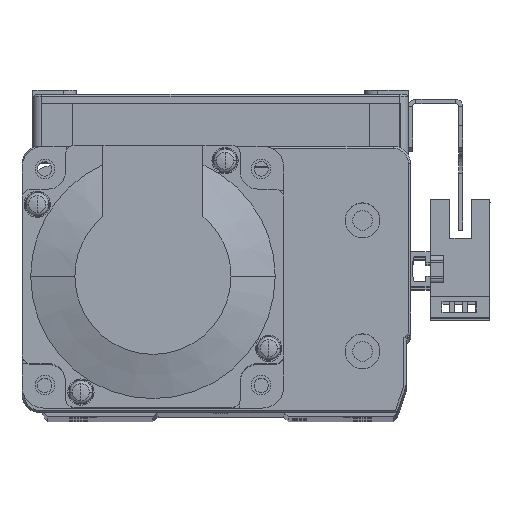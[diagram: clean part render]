
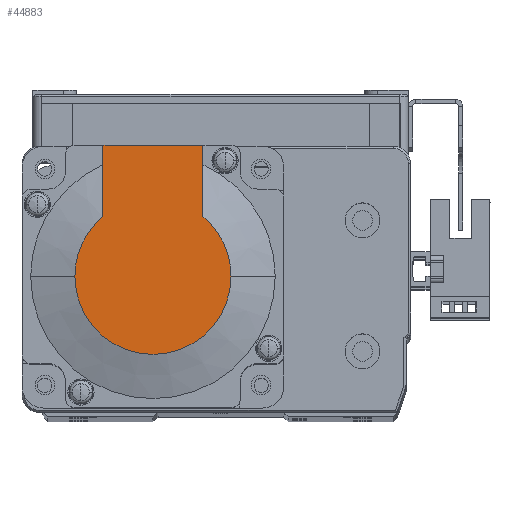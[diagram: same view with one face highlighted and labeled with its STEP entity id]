
A CAD part, top view. The second image highlights one B-rep face of the part: STEP entity #44883.
In plain terms, the highlighted planar face has unit normal (0, 0, 1) as drawn and (-1, 0, 0) by its records, which use the part's own axes.
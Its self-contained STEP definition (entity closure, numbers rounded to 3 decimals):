
#109 = VERTEX_POINT ( 'NONE', #30362 ) ;
#2568 = FACE_OUTER_BOUND ( 'NONE', #30225, .T. ) ;
#2704 = DIRECTION ( 'NONE',  ( -1., 0., 0. ) ) ;
#2720 = CARTESIAN_POINT ( 'NONE',  ( -99., 0., 0. ) ) ;
#2808 = DIRECTION ( 'NONE',  ( 0., 0., -1. ) ) ;
#4232 = DIRECTION ( 'NONE',  ( 0., 0., 1. ) ) ;
#4248 = PLANE ( 'NONE',  #35534 ) ;
#4259 = CARTESIAN_POINT ( 'NONE',  ( -99., -8.941, 0. ) ) ;
#4261 = DIRECTION ( 'NONE',  ( -1., 0., 0. ) ) ;
#10204 = EDGE_CURVE ( 'NONE', #18052, #18088, #16955, .T. ) ;
#10229 = EDGE_CURVE ( 'NONE', #109, #18572, #17017, .T. ) ;
#10277 = EDGE_CURVE ( 'NONE', #18088, #18623, #17131, .T. ) ;
#10311 = EDGE_CURVE ( 'NONE', #18052, #109, #17141, .T. ) ;
#10604 = EDGE_CURVE ( 'NONE', #18581, #18623, #31034, .T. ) ;
#10731 = EDGE_CURVE ( 'NONE', #18572, #18581, #31262, .T. ) ;
#13233 = AXIS2_PLACEMENT_3D ( 'NONE', #46620, #46640, #46647 ) ;
#13556 = AXIS2_PLACEMENT_3D ( 'NONE', #2720, #2704, #2808 ) ;
#13999 = CARTESIAN_POINT ( 'NONE',  ( -99., 30., -11.45 ) ) ;
#14055 = CARTESIAN_POINT ( 'NONE',  ( -99., 30., 11.45 ) ) ;
#14508 = CARTESIAN_POINT ( 'NONE',  ( -99., 0., -17.881 ) ) ;
#14517 = CARTESIAN_POINT ( 'NONE',  ( -99., 0., 17.881 ) ) ;
#14625 = CARTESIAN_POINT ( 'NONE',  ( -99., 13.735, 11.45 ) ) ;
#16955 = LINE ( 'NONE', #46575, #16983 ) ;
#16983 = VECTOR ( 'NONE', #46535, 1000. ) ;
#17017 = CIRCLE ( 'NONE', #13233, 17.881 ) ;
#17068 = VECTOR ( 'NONE', #46741, 1000. ) ;
#17131 = LINE ( 'NONE', #46774, #17068 ) ;
#17138 = VECTOR ( 'NONE', #46841, 1000. ) ;
#17141 = LINE ( 'NONE', #46826, #17138 ) ;
#17777 = ORIENTED_EDGE ( 'NONE', *, *, #10229, .T. ) ;
#17785 = ORIENTED_EDGE ( 'NONE', *, *, #10604, .T. ) ;
#17792 = ORIENTED_EDGE ( 'NONE', *, *, #10731, .T. ) ;
#17793 = ORIENTED_EDGE ( 'NONE', *, *, #10277, .F. ) ;
#17802 = ORIENTED_EDGE ( 'NONE', *, *, #10204, .F. ) ;
#17822 = ORIENTED_EDGE ( 'NONE', *, *, #10311, .T. ) ;
#18052 = VERTEX_POINT ( 'NONE', #13999 ) ;
#18088 = VERTEX_POINT ( 'NONE', #14055 ) ;
#18572 = VERTEX_POINT ( 'NONE', #14508 ) ;
#18581 = VERTEX_POINT ( 'NONE', #14517 ) ;
#18623 = VERTEX_POINT ( 'NONE', #14625 ) ;
#24942 = CARTESIAN_POINT ( 'NONE',  ( -99., 0., 0. ) ) ;
#24943 = DIRECTION ( 'NONE',  ( -1., 0., 0. ) ) ;
#24962 = DIRECTION ( 'NONE',  ( 0., 0., -1. ) ) ;
#30225 = EDGE_LOOP ( 'NONE', ( #17822, #17777, #17792, #17785, #17793, #17802 ) ) ;
#30362 = CARTESIAN_POINT ( 'NONE',  ( -99., 13.735, -11.45 ) ) ;
#31034 = CIRCLE ( 'NONE', #13556, 17.881 ) ;
#31262 = CIRCLE ( 'NONE', #34532, 17.881 ) ;
#34532 = AXIS2_PLACEMENT_3D ( 'NONE', #24942, #24943, #24962 ) ;
#35534 = AXIS2_PLACEMENT_3D ( 'NONE', #4259, #4261, #4232 ) ;
#44883 = ADVANCED_FACE ( 'NONE', ( #2568 ), #4248, .T. ) ;
#46535 = DIRECTION ( 'NONE',  ( 0., 0., 1. ) ) ;
#46575 = CARTESIAN_POINT ( 'NONE',  ( -99., 30., 25. ) ) ;
#46620 = CARTESIAN_POINT ( 'NONE',  ( -99., 0., 0. ) ) ;
#46640 = DIRECTION ( 'NONE',  ( -1., 0., 0. ) ) ;
#46647 = DIRECTION ( 'NONE',  ( 0., 0., -1. ) ) ;
#46741 = DIRECTION ( 'NONE',  ( 0., -1., 0. ) ) ;
#46774 = CARTESIAN_POINT ( 'NONE',  ( -99., 0., 11.45 ) ) ;
#46826 = CARTESIAN_POINT ( 'NONE',  ( -99., -8.941, -11.45 ) ) ;
#46841 = DIRECTION ( 'NONE',  ( 0., -1., 0. ) ) ;
